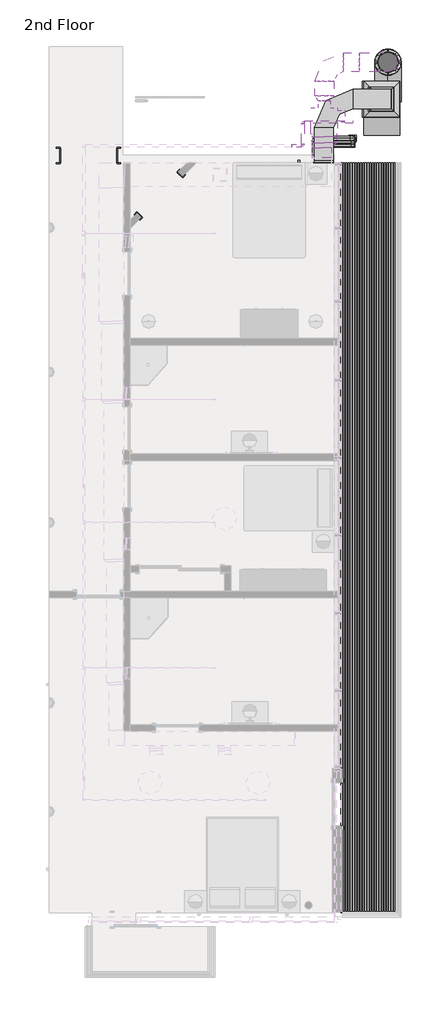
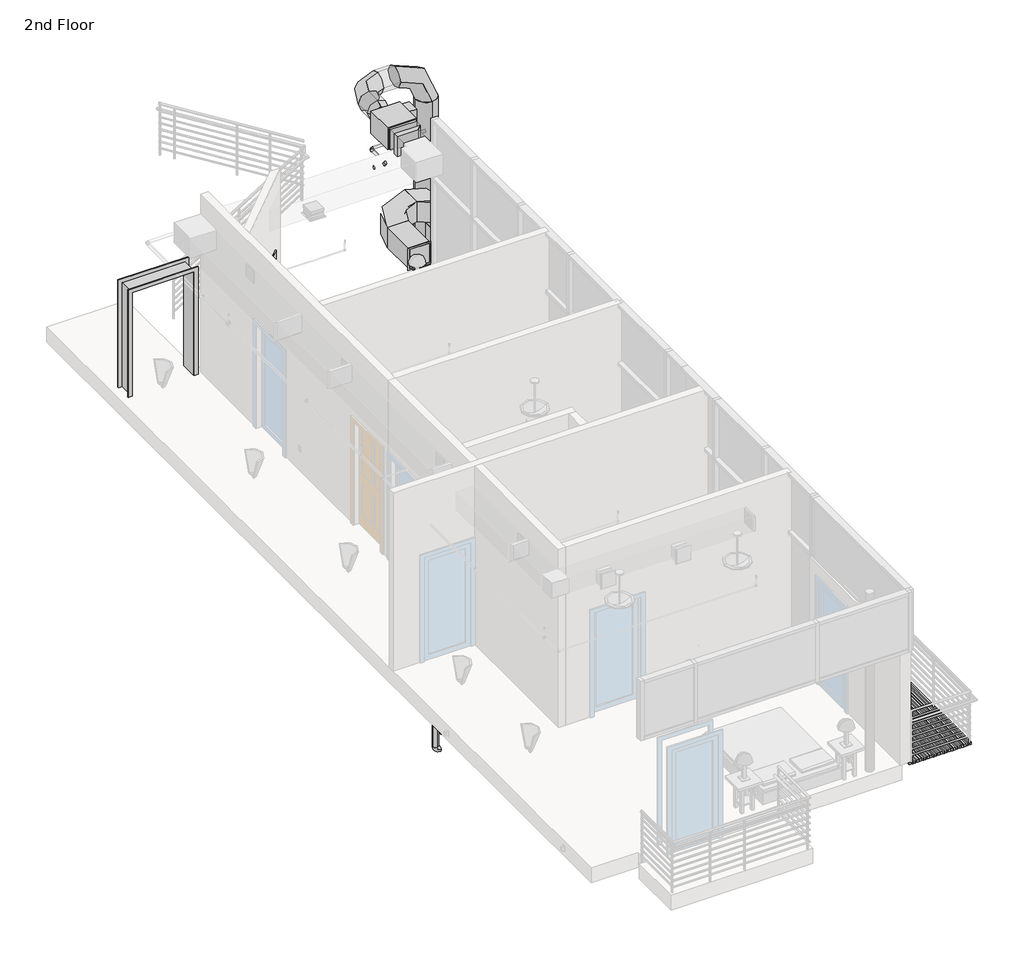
# One storey, part 7 of 7: 16 pipe fittings, 15 pipe segments, 14 duct fittings, 11 duct segments, 6 proxies, 1 air terminal.
"""IFC4 building model written with IfcOpenShell, lengths in millimetres."""

from ifc_helpers import new_model, si_unit, point, frame, frame_2d, origin, place, context, project, spatial, polyline, circle_curve, trimmed, segment, composite_curve, outline, extrude, transform, mapped, element, save
from components import air_terminal_831a3b9e, balcony_floor_grill_balcony_floor_grill_0aae0050, proxy_20ebd3de, proxy_50e7bca7, pipe_dcw_origin_standard_a8ebccfd, receptacle_gfci_367a9a66, shut_off_vav_10_inch_df6e8142, rectangular_duct_radius_elbow_1_w_26603e4f, rectangular_duct_radius_elbow_1_5_w_27b67147, rectangular_duct_tee_standard_0a25ee65, rectangular_duct_tee_standard_4e0234f7, rectangular_duct_transition_standard_f2bcc6f5, rectangular_duct_transition_standard_a76c8676, rectangular_duct_transition_standard_80c6b62c, round_duct_elbow_1_d_d8910935, round_duct_elbow_1_5_d_4d61f244, round_duct_elbow_1_5_d_5213bb2c, round_duct_transition_standard_7377344e, round_duct_transition_standard_e72bc3ee, round_duct_transition_standard_258c60d8, pipe_elbow_standard_764eecca, pipe_elbow1_standard_2_1c0ee581, pipe_elbow1_standard_2_fca8fec2, pipe_pvc_bend_standard_5fa9d94a, pipe_pvc_bend_standard_aa0c8d42, pipe_pvc_bend_standard_1e05a426, pipe_pvc_short_sanitary_tee_standard_892dad59, pipe_pvc_short_sanitary_tee1_standard_2_acb1558a, pipe_transition_eccentric_standard_ae9cfb6a, pipe_transition_eccentric_standard_3f24249d

model = new_model("IFC4")

# Units and contexts
model_context = context("Model", 3, world=origin())
ifc_project = project(units=[si_unit("LENGTHUNIT", "METRE", prefix="MILLI")], contexts=[model_context])

# Site, building, storey
site = spatial("IfcSite", under=ifc_project)
building = spatial("IfcBuilding", under=site)
storey = spatial("IfcBuildingStorey", under=building, Name="2nd Floor", Elevation=7924.8)

# Air terminal
placement = place(None, origin())
air_terminal_shape = air_terminal_831a3b9e(model_context)
element("IfcAirTerminal", 1, ObjectType="Square Return Grille - Hosted : 16\" x 16\"", at=placement, inside=storey, context=model_context, shape_type="MappedRepresentation", body=[
    mapped(air_terminal_shape, transform((2219.5060388, 9152.359643, 8658.225), x_axis=(-1.0, 0.0, 0.0), y_axis=(0.0, 0.0, -1.0), z_axis=(0.0, -1.0, 0.0))),
])

# Proxies
balcony_floor_grill_balcony_floor_grill_shape = balcony_floor_grill_balcony_floor_grill_0aae0050(model_context)
element("IfcBuildingElementProxy", 2, Name="Balcony floor grill : Balcony floor grill", ObjectType="Balcony floor grill : Balcony floor grill", at=placement, inside=storey, context=model_context, shape_type="MappedRepresentation", body=[
    mapped(balcony_floor_grill_balcony_floor_grill_shape, transform((1705.1560388, 9152.359643, 7924.8), x_axis=(1.0, 0.0, 0.0), y_axis=(0.0, 1.0, 0.0), z_axis=(0.0, 0.0, 1.0))),
])
proxy_shape = proxy_20ebd3de(model_context)
element("IfcBuildingElementProxy", 3, Name="Opening-Cased : 48\" x 84\"", ObjectType="Opening-Cased : 48\" x 84\"", at=placement, inside=storey, context=model_context, shape_type="MappedRepresentation", body=[
    mapped(proxy_shape, transform((-3623.7718379, 9304.759643, 7924.8), x_axis=(1.0, 0.0, 0.0), y_axis=(0.0, 1.0, 0.0), z_axis=(0.0, 0.0, 1.0))),
])
proxy_2_shape = proxy_50e7bca7(model_context)
element("IfcBuildingElementProxy", 4, Name="Opening-Cased : 48\" x 84\"", ObjectType="Opening-Cased : 48\" x 84\"", at=placement, inside=storey, context=model_context, shape_type="MappedRepresentation", body=[
    mapped(proxy_2_shape, transform((-2132.3311629, 8467.5889747, 7924.8), x_axis=(-0.707106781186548, -0.7071067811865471, 0.0), y_axis=(0.7071067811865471, -0.707106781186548, 0.0), z_axis=(0.0, 0.0, 1.0))),
])
pipe_dcw_origin_standard_shape = pipe_dcw_origin_standard_a8ebccfd(model_context)
element("IfcBuildingElementProxy", 5, Name="Pipe Wet Origin : Standard", ObjectType="Pipe Wet Origin : Standard", at=placement, inside=storey, context=model_context, shape_type="MappedRepresentation", body=[
    mapped(pipe_dcw_origin_standard_shape, transform((670.191299, 9507.959643, 10668.0), x_axis=(1.0, 0.0, 0.0), y_axis=(0.0, 1.0, 0.0), z_axis=(0.0, 0.0, 1.0))),
])
receptacle_gfci_shape = receptacle_gfci_367a9a66(model_context)
element("IfcBuildingElementProxy", 6, Name="Receptacle : Standard", ObjectType="Receptacle : Standard", at=placement, inside=storey, context=model_context, shape_type="MappedRepresentation", body=[
    mapped(receptacle_gfci_shape, transform((816.1560388, 9152.359643, 8343.7029353), x_axis=(-1.0, 0.0, 0.0), y_axis=(0.0, 0.0, -1.0), z_axis=(0.0, -1.0, 0.0))),
])
shut_off_vav_10_inch_shape = shut_off_vav_10_inch_df6e8142(model_context)
element("IfcBuildingElementProxy", 7, Name="Shut off VAV : 10 Inch", ObjectType="Shut off VAV : 10 Inch", at=placement, inside=storey, context=model_context, shape_type="MappedRepresentation", body=[
    mapped(shut_off_vav_10_inch_shape, transform((1352.9183521, 10028.5537863, 10972.8), x_axis=(1.0, 0.0, 0.0), y_axis=(0.0, 1.0, 0.0), z_axis=(0.0, 0.0, 1.0))),
])

# Duct fittings
rectangular_duct_radius_elbow_1_w_shape = rectangular_duct_radius_elbow_1_w_26603e4f(model_context)
element("IfcDuctFitting", 8, ObjectType="Rectangular Duct Radius Elbow : 1 W", at=placement, inside=storey, context=model_context, shape_type="MappedRepresentation", body=[
    mapped(rectangular_duct_radius_elbow_1_w_shape, transform((2565.5810388, 10493.7050553, -914.4), x_axis=(0.0, 0.0, -1.0), y_axis=(0.0, -1.0, 0.0), z_axis=(-1.0, 0.0, 0.0))),
])
rectangular_duct_radius_elbow_1_5_w_shape = rectangular_duct_radius_elbow_1_5_w_27b67147(model_context)
element("IfcDuctFitting", 9, ObjectType="Rectangular Duct Radius Elbow : 1.5 W", at=placement, inside=storey, context=model_context, shape_type="MappedRepresentation", body=[
    mapped(rectangular_duct_radius_elbow_1_5_w_shape, transform((2565.5810388, 10493.7050553, 8839.2), x_axis=(1.0, 0.0, 0.0), y_axis=(0.0, 0.0, -1.0), z_axis=(0.0, 1.0, 0.0))),
])
element("IfcDuctFitting", 10, ObjectType="Rectangular Duct Radius Elbow : 1.5 W", at=placement, inside=storey, context=model_context, shape_type="MappedRepresentation", body=[
    mapped(rectangular_duct_radius_elbow_1_5_w_shape, transform((1346.3810388, 10493.7050553, 8839.2), x_axis=(0.0, 1.0, 0.0), y_axis=(1.0, 0.0, 0.0), z_axis=(0.0, 0.0, -1.0))),
])
rectangular_duct_tee_standard_shape = rectangular_duct_tee_standard_0a25ee65(model_context)
element("IfcDuctFitting", 11, ObjectType="Rectangular Duct Tee : Standard", at=placement, inside=storey, context=model_context, shape_type="MappedRepresentation", body=[
    mapped(rectangular_duct_tee_standard_shape, transform((2565.5810388, 10493.7050553, 4572.0), x_axis=(0.0, 0.0, 1.0), y_axis=(1.0, 0.0, 0.0), z_axis=(0.0, 1.0, 0.0))),
])
rectangular_duct_tee_standard_2_shape = rectangular_duct_tee_standard_4e0234f7(model_context)
element("IfcDuctFitting", 12, ObjectType="Rectangular Duct Tee : Standard", at=placement, inside=storey, context=model_context, shape_type="MappedRepresentation", body=[
    mapped(rectangular_duct_tee_standard_2_shape, transform((2565.5810388, 10493.7050553, 1828.8), x_axis=(0.0, 0.0, 1.0), y_axis=(1.0, 0.0, 0.0), z_axis=(0.0, 1.0, 0.0))),
])
rectangular_duct_transition_standard_shape = rectangular_duct_transition_standard_f2bcc6f5(model_context)
element("IfcDuctFitting", 13, ObjectType="Rectangular Duct Transition : Standard", at=placement, inside=storey, context=model_context, shape_type="MappedRepresentation", body=[
    mapped(rectangular_duct_transition_standard_shape, transform((1352.9183521, 9571.3537863, 10972.8), x_axis=(0.0, -1.0, 0.0), y_axis=(-1.0, 0.0, 0.0), z_axis=(0.0, 0.0, -1.0))),
])
rectangular_duct_transition_standard_2_shape = rectangular_duct_transition_standard_a76c8676(model_context)
element("IfcDuctFitting", 14, ObjectType="Rectangular Duct Transition : Standard", at=placement, inside=storey, context=model_context, shape_type="MappedRepresentation", body=[
    mapped(rectangular_duct_transition_standard_2_shape, transform((2565.5810388, 10493.7050553, 4800.6), x_axis=(0.0, 0.0, 1.0), y_axis=(0.0, 1.0, 0.0), z_axis=(-1.0, 0.0, 0.0))),
])
rectangular_duct_transition_standard_3_shape = rectangular_duct_transition_standard_80c6b62c(model_context)
element("IfcDuctFitting", 15, ObjectType="Rectangular Duct Transition : Standard", at=placement, inside=storey, context=model_context, shape_type="MappedRepresentation", body=[
    mapped(rectangular_duct_transition_standard_3_shape, transform((2565.5810388, 10493.7050553, 2311.4), x_axis=(0.0, 0.0, -1.0), y_axis=(0.0, -1.0, 0.0), z_axis=(-1.0, 0.0, 0.0))),
])
round_duct_elbow_1_d_shape = round_duct_elbow_1_d_d8910935(model_context)
element("IfcDuctFitting", 16, ObjectType="Round Duct Elbow : 1 D", at=placement, inside=storey, context=model_context, shape_type="MappedRepresentation", body=[
    mapped(round_duct_elbow_1_d_shape, transform((1352.9183521, 11273.1537863, 10972.8), x_axis=(-1.0, 0.0, 0.0), y_axis=(0.0, -1.0, 0.0), z_axis=(0.0, 0.0, 1.0))),
])
round_duct_elbow_1_5_d_shape = round_duct_elbow_1_5_d_4d61f244(model_context)
element("IfcDuctFitting", 17, ObjectType="Round Duct Elbow : 1.5 D", at=placement, inside=storey, context=model_context, shape_type="MappedRepresentation", body=[
    mapped(round_duct_elbow_1_5_d_shape, transform((2699.1183521, 11273.1537863, 10972.8), x_axis=(1.0, 0.0, 0.0), y_axis=(0.0, 0.0, -1.0), z_axis=(0.0, 1.0, 0.0))),
])
round_duct_elbow_1_5_d_2_shape = round_duct_elbow_1_5_d_5213bb2c(model_context)
element("IfcDuctFitting", 18, ObjectType="Round Duct Elbow : 1.5 D", at=placement, inside=storey, context=model_context, shape_type="MappedRepresentation", body=[
    mapped(round_duct_elbow_1_5_d_2_shape, transform((2699.1183521, 11273.1537863, -1960.358655), x_axis=(0.0, 0.0, -1.0), y_axis=(0.0, -1.0, 0.0), z_axis=(-1.0, 0.0, 0.0))),
])
round_duct_transition_standard_shape = round_duct_transition_standard_7377344e(model_context)
element("IfcDuctFitting", 19, ObjectType="Round Duct Transition : Standard", at=placement, inside=storey, context=model_context, shape_type="MappedRepresentation", body=[
    mapped(round_duct_transition_standard_shape, transform((2699.1183521, 11273.1537863, 4819.65), x_axis=(0.0, 0.0, 1.0), y_axis=(0.0, 1.0, 0.0), z_axis=(-1.0, 0.0, 0.0))),
])
round_duct_transition_standard_2_shape = round_duct_transition_standard_e72bc3ee(model_context)
element("IfcDuctFitting", 20, ObjectType="Round Duct Transition : Standard", at=placement, inside=storey, context=model_context, shape_type="MappedRepresentation", body=[
    mapped(round_duct_transition_standard_2_shape, transform((2699.1183521, 11273.1537863, 7302.5), x_axis=(0.0, 0.0, -1.0), y_axis=(0.0, -1.0, 0.0), z_axis=(-1.0, 0.0, 0.0))),
])
round_duct_transition_standard_3_shape = round_duct_transition_standard_258c60d8(model_context)
element("IfcDuctFitting", 21, ObjectType="Round Duct Transition : Standard", at=placement, inside=storey, context=model_context, shape_type="MappedRepresentation", body=[
    mapped(round_duct_transition_standard_3_shape, transform((1352.9183521, 10460.3537863, 10972.8), x_axis=(0.0, 1.0, 0.0), y_axis=(-1.0, 0.0, 0.0), z_axis=(0.0, 0.0, 1.0))),
])

# Duct segments
element("IfcDuctSegment", 22, ObjectType="Mitered Elbows / Taps", at=placement, inside=storey, context=model_context, shape_type="SweptSolid", body=[
    extrude(outline(polyline([(1098.9183521, 9469.7537863), (1505.3183521, 9469.7537863), (1505.3183521, 9253.959643), (1098.9183521, 9253.959643), (1098.9183521, 9469.7537863)])), frame((0.0, 0.0, 10769.6), z_axis=(0.0, 0.0, 1.0), x_axis=(1.0, 0.0, 0.0)), (0.0, 0.0, 1.0), 406.4),
])
element("IfcDuctSegment", 23, ObjectType="Mitered Elbows / Taps", at=placement, inside=storey, context=model_context, shape_type="SweptSolid", body=[
    extrude(outline(polyline([(1098.9183521, 9698.3537863), (1606.9183521, 9698.3537863), (1606.9183521, 9571.3537863), (1098.9183521, 9571.3537863), (1098.9183521, 9698.3537863)])), frame((0.0, 0.0, 10769.6), z_axis=(0.0, 0.0, 1.0), x_axis=(1.0, 0.0, 0.0)), (0.0, 0.0, 1.0), 406.4),
])
element("IfcDuctSegment", 24, ObjectType="Mitered Elbows / Taps Sidewall", at=placement, inside=storey, context=model_context, shape_type="SweptSolid", body=[
    extrude(outline(polyline([(1549.5810388, 9196.809643), (1143.1810388, 9196.809643), (1143.1810388, 9884.1050553), (1549.5810388, 9884.1050553), (1549.5810388, 9196.809643)])), frame((0.0, 0.0, 8636.0), z_axis=(0.0, 0.0, 1.0), x_axis=(1.0, 0.0, 0.0)), (0.0, 0.0, 1.0), 406.4),
])
element("IfcDuctSegment", 25, ObjectType="Mitered Elbows / Taps Sidewall", at=placement, inside=storey, context=model_context, shape_type="SweptSolid", body=[
    extrude(outline(polyline([(2768.7810388, 10290.5050553), (2362.3810388, 10290.5050553), (2362.3810388, 10696.9050553), (2768.7810388, 10696.9050553), (2768.7810388, 10290.5050553)])), frame((0.0, 0.0, 4902.2), z_axis=(0.0, 0.0, 1.0), x_axis=(1.0, 0.0, 0.0)), (0.0, 0.0, 1.0), 3327.4),
])
element("IfcDuctSegment", 26, ObjectType="Mitered Elbows / Taps Sidewall", at=placement, inside=storey, context=model_context, shape_type="SweptSolid", body=[
    extrude(outline(polyline([(2819.5810388, 10239.7050553), (2311.5810388, 10239.7050553), (2311.5810388, 10747.7050553), (2819.5810388, 10747.7050553), (2819.5810388, 10239.7050553)])), frame((0.0, 0.0, 2311.4), z_axis=(0.0, 0.0, 1.0), x_axis=(1.0, 0.0, 0.0)), (0.0, 0.0, 1.0), 2032.0),
])
element("IfcDuctSegment", 27, ObjectType="Radius Elbows / Taps", at=placement, inside=storey, context=model_context, shape_type="SweptSolid", body=[
    extrude(outline(polyline([(2946.5810388, 10874.7050553), (2946.5810388, 10112.7050553), (2184.5810388, 10112.7050553), (2184.5810388, 10874.7050553), (2946.5810388, 10874.7050553)])), frame((0.0, 0.0, -152.4), z_axis=(0.0, 0.0, 1.0), x_axis=(1.0, 0.0, 0.0)), (0.0, 0.0, 1.0), 1752.6),
])
element("IfcDuctSegment", 28, ObjectType="Taps", at=placement, inside=storey, context=model_context, shape_type="SweptSolid", body=[
    extrude(outline(composite_curve([segment(trimmed(circle_curve(frame_2d((11273.1537863, 10972.8)), 203.2), [point((11069.9537863, 10972.8))], [point((11273.1537863, 11176.0))], False, "CARTESIAN"), True, "CONTINUOUS"), segment(trimmed(circle_curve(frame_2d((11273.1537863, 10972.8)), 203.2), [point((11273.1537863, 11176.0))], [point((11476.3537863, 10972.8))], False, "CARTESIAN"), True, "CONTINUOUS"), segment(trimmed(circle_curve(frame_2d((11273.1537863, 10972.8)), 203.2), [point((11476.3537863, 10972.8))], [point((11273.1537863, 10769.6))], False, "CARTESIAN"), True, "CONTINUOUS"), segment(trimmed(circle_curve(frame_2d((11273.1537863, 10972.8)), 203.2), [point((11273.1537863, 10769.6))], [point((11069.9537863, 10972.8))], False, "CARTESIAN"), True, "CONTINUOUS")], self_intersect=False)), frame((1759.3183521, 0.0, 0.0), z_axis=(1.0, 0.0, 0.0), x_axis=(0.0, 1.0, 0.0)), (0.0, 0.0, 1.0), 330.2),
])
element("IfcDuctSegment", 29, ObjectType="Taps", at=placement, inside=storey, context=model_context, shape_type="SweptSolid", body=[
    extrude(outline(composite_curve([segment(trimmed(circle_curve(frame_2d((2699.1183521, 11273.1537863)), 203.2), [point((2699.1183521, 11476.3537863))], [point((2902.3183521, 11273.1537863))], False, "CARTESIAN"), True, "CONTINUOUS"), segment(trimmed(circle_curve(frame_2d((2699.1183521, 11273.1537863)), 203.2), [point((2902.3183521, 11273.1537863))], [point((2699.1183521, 11069.9537863))], False, "CARTESIAN"), True, "CONTINUOUS"), segment(trimmed(circle_curve(frame_2d((2699.1183521, 11273.1537863)), 203.2), [point((2699.1183521, 11069.9537863))], [point((2495.9183521, 11273.1537863))], False, "CARTESIAN"), True, "CONTINUOUS"), segment(trimmed(circle_curve(frame_2d((2699.1183521, 11273.1537863)), 203.2), [point((2495.9183521, 11273.1537863))], [point((2699.1183521, 11476.3537863))], False, "CARTESIAN"), True, "CONTINUOUS")], self_intersect=False)), frame((0.0, 0.0, 7302.5), z_axis=(0.0, 0.0, 1.0), x_axis=(1.0, 0.0, 0.0)), (0.0, 0.0, 1.0), 3060.7),
])
element("IfcDuctSegment", 30, ObjectType="Taps", at=placement, inside=storey, context=model_context, shape_type="SweptSolid", body=[
    extrude(outline(composite_curve([segment(trimmed(circle_curve(frame_2d((2699.1183521, 11273.1537863)), 228.6), [point((2699.1183521, 11501.7537863))], [point((2927.7183521, 11273.1537863))], False, "CARTESIAN"), True, "CONTINUOUS"), segment(trimmed(circle_curve(frame_2d((2699.1183521, 11273.1537863)), 228.6), [point((2927.7183521, 11273.1537863))], [point((2699.1183521, 11044.5537863))], False, "CARTESIAN"), True, "CONTINUOUS"), segment(trimmed(circle_curve(frame_2d((2699.1183521, 11273.1537863)), 228.6), [point((2699.1183521, 11044.5537863))], [point((2470.5183521, 11273.1537863))], False, "CARTESIAN"), True, "CONTINUOUS"), segment(trimmed(circle_curve(frame_2d((2699.1183521, 11273.1537863)), 228.6), [point((2470.5183521, 11273.1537863))], [point((2699.1183521, 11501.7537863))], False, "CARTESIAN"), True, "CONTINUOUS")], self_intersect=False)), frame((0.0, 0.0, 4959.35), z_axis=(0.0, 0.0, 1.0), x_axis=(1.0, 0.0, 0.0)), (0.0, 0.0, 1.0), 1873.25),
])
element("IfcDuctSegment", 31, ObjectType="Taps", at=placement, inside=storey, context=model_context, shape_type="SweptSolid", body=[
    extrude(outline(composite_curve([segment(trimmed(circle_curve(frame_2d((2699.1183521, 11273.1537863)), 279.4), [point((2699.1183521, 11552.5537863))], [point((2978.5183521, 11273.1537863))], False, "CARTESIAN"), True, "CONTINUOUS"), segment(trimmed(circle_curve(frame_2d((2699.1183521, 11273.1537863)), 279.4), [point((2978.5183521, 11273.1537863))], [point((2699.1183521, 10993.7537863))], False, "CARTESIAN"), True, "CONTINUOUS"), segment(trimmed(circle_curve(frame_2d((2699.1183521, 11273.1537863)), 279.4), [point((2699.1183521, 10993.7537863))], [point((2419.7183521, 11273.1537863))], False, "CARTESIAN"), True, "CONTINUOUS"), segment(trimmed(circle_curve(frame_2d((2699.1183521, 11273.1537863)), 279.4), [point((2419.7183521, 11273.1537863))], [point((2699.1183521, 11552.5537863))], False, "CARTESIAN"), True, "CONTINUOUS")], self_intersect=False)), frame((0.0, 0.0, -1122.158655), z_axis=(0.0, 0.0, 1.0), x_axis=(1.0, 0.0, 0.0)), (0.0, 0.0, 1.0), 5941.808655),
])
element("IfcDuctSegment", 32, ObjectType="Taps", at=placement, inside=storey, context=model_context, shape_type="SweptSolid", body=[
    extrude(outline(composite_curve([segment(trimmed(circle_curve(frame_2d((10972.8, 1352.9183521)), 203.2), [point((10972.8, 1556.1183521))], [point((11176.0, 1352.9183521))], False, "CARTESIAN"), True, "CONTINUOUS"), segment(trimmed(circle_curve(frame_2d((10972.8, 1352.9183521)), 203.2), [point((11176.0, 1352.9183521))], [point((10972.8, 1149.7183521))], False, "CARTESIAN"), True, "CONTINUOUS"), segment(trimmed(circle_curve(frame_2d((10972.8, 1352.9183521)), 203.2), [point((10972.8, 1149.7183521))], [point((10769.6, 1352.9183521))], False, "CARTESIAN"), True, "CONTINUOUS"), segment(trimmed(circle_curve(frame_2d((10972.8, 1352.9183521)), 203.2), [point((10769.6, 1352.9183521))], [point((10972.8, 1556.1183521))], False, "CARTESIAN"), True, "CONTINUOUS")], self_intersect=False)), frame((0.0, 10561.9537863, 0.0), z_axis=(0.0, 1.0, 0.0), x_axis=(0.0, 0.0, 1.0)), (0.0, 0.0, 1.0), 304.8),
])

# Pipe fittings
pipe_elbow_standard_shape = pipe_elbow_standard_764eecca(model_context)
element("IfcPipeFitting", 33, ObjectType="Pipe Elbow : Standard", at=placement, inside=storey, context=model_context, shape_type="MappedRepresentation", body=[
    mapped(pipe_elbow_standard_shape, transform((1239.0339673, 9575.5665072, 7315.2), x_axis=(0.0, 1.0, 0.0), y_axis=(1.0, 0.0, 0.0), z_axis=(0.0, 0.0, -1.0))),
])
element("IfcPipeFitting", 34, ObjectType="Pipe Elbow : Standard", at=placement, inside=storey, context=model_context, shape_type="MappedRepresentation", body=[
    mapped(pipe_elbow_standard_shape, transform((1961.8568022, 9575.5665072, 7315.2), x_axis=(0.0, 0.0, 1.0), y_axis=(-1.0, 0.0, 0.0), z_axis=(0.0, -1.0, 0.0))),
])
element("IfcPipeFitting", 35, ObjectType="Pipe Elbow : Standard", at=placement, inside=storey, context=model_context, shape_type="MappedRepresentation", body=[
    mapped(pipe_elbow_standard_shape, transform((1321.5267673, 9502.9587059, 7315.2), x_axis=(0.0, 1.0, 0.0), y_axis=(1.0, 0.0, 0.0), z_axis=(0.0, 0.0, -1.0))),
])
element("IfcPipeFitting", 36, ObjectType="Pipe Elbow : Standard", at=placement, inside=storey, context=model_context, shape_type="MappedRepresentation", body=[
    mapped(pipe_elbow_standard_shape, transform((1961.8568022, 9502.9587059, 7315.2), x_axis=(0.0, 0.0, 1.0), y_axis=(-1.0, 0.0, 0.0), z_axis=(0.0, -1.0, 0.0))),
])
pipe_elbow1_standard_2_shape = pipe_elbow1_standard_2_1c0ee581(model_context)
element("IfcPipeFitting", 37, ObjectType="Pipe Elbow1 : Standard 2", at=placement, inside=storey, context=model_context, shape_type="MappedRepresentation", body=[
    mapped(pipe_elbow1_standard_2_shape, transform((1961.8568022, 9502.9587059, 456.2078125), x_axis=(0.0, 0.0, -1.0), y_axis=(1.0, 0.0, 0.0), z_axis=(0.0, -1.0, 0.0))),
])
element("IfcPipeFitting", 38, ObjectType="Pipe Elbow1 : Standard 2", at=placement, inside=storey, context=model_context, shape_type="MappedRepresentation", body=[
    mapped(pipe_elbow1_standard_2_shape, transform((1961.8568022, 9575.5665072, 455.6786458), x_axis=(0.0, 0.0, -1.0), y_axis=(1.0, 0.0, 0.0), z_axis=(0.0, -1.0, 0.0))),
])
element("IfcPipeFitting", 39, ObjectType="Pipe Elbow1 : Standard 2", at=placement, inside=storey, context=model_context, shape_type="MappedRepresentation", body=[
    mapped(pipe_elbow_standard_shape, transform((899.9760388, 9507.959643, 10668.0), x_axis=(1.0, 0.0, 0.0), y_axis=(0.0, 1.0, 0.0), z_axis=(0.0, 0.0, 1.0))),
])
element("IfcPipeFitting", 40, ObjectType="Pipe Elbow1 : Standard 2", at=placement, inside=storey, context=model_context, shape_type="MappedRepresentation", body=[
    mapped(pipe_elbow_standard_shape, transform((899.9760388, 10004.7891583, 10668.0), x_axis=(0.0, 1.0, 0.0), y_axis=(1.0, 0.0, 0.0), z_axis=(0.0, 0.0, -1.0))),
])
pipe_elbow1_standard_2_2_shape = pipe_elbow1_standard_2_fca8fec2(model_context)
element("IfcPipeFitting", 41, ObjectType="Pipe Elbow1 : Standard 2", at=placement, inside=storey, context=model_context, shape_type="MappedRepresentation", body=[
    mapped(pipe_elbow1_standard_2_2_shape, transform((1956.0654371, 9666.2337041, 7310.4375), x_axis=(0.9999449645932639, 0.0, -0.010491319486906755), y_axis=(-0.010491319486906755, 0.0, -0.9999449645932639), z_axis=(0.0, 1.0, 0.0))),
])
pipe_pvc_bend_standard_shape = pipe_pvc_bend_standard_5fa9d94a(model_context)
element("IfcPipeFitting", 42, ObjectType="Pipe PVC Bend : Standard", at=placement, inside=storey, context=model_context, shape_type="MappedRepresentation", body=[
    mapped(pipe_pvc_bend_standard_shape, transform((1956.0654371, 9666.2337041, -1809.8101271), x_axis=(0.0, 0.0, -1.0), y_axis=(1.0, 0.0, 0.0), z_axis=(0.0, -1.0, 0.0))),
])
pipe_pvc_bend_standard_2_shape = pipe_pvc_bend_standard_aa0c8d42(model_context)
element("IfcPipeFitting", 43, ObjectType="Pipe PVC Bend : Standard", at=placement, inside=storey, context=model_context, shape_type="MappedRepresentation", body=[
    mapped(pipe_pvc_bend_standard_2_shape, transform((1139.7888317, 9004.6705514, 7325.8930728), x_axis=(0.9999456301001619, 0.0, -0.010427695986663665), y_axis=(-0.00010861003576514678, 0.9999457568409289, -0.010414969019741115), z_axis=(0.010427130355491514, 0.010415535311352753, 0.9998913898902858))),
])
pipe_pvc_bend_standard_3_shape = pipe_pvc_bend_standard_1e05a426(model_context)
element("IfcPipeFitting", 44, ObjectType="Pipe PVC Bend : Standard", at=placement, inside=storey, context=model_context, shape_type="MappedRepresentation", body=[
    mapped(pipe_pvc_bend_standard_3_shape, transform((1139.7888317, 9666.2337041, 7319.00179), x_axis=(0.0, 0.9999457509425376, -0.01041610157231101), y_axis=(0.9999449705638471, -0.00010927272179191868, -0.010490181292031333), z_axis=(-0.010490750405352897, -0.010415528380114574, -0.9998907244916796))),
])
pipe_pvc_short_sanitary_tee_standard_shape = pipe_pvc_short_sanitary_tee_standard_892dad59(model_context)
element("IfcPipeFitting", 45, ObjectType="Pipe PVC Short Sanitary Tee : Standard", at=placement, inside=storey, context=model_context, shape_type="MappedRepresentation", body=[
    mapped(pipe_pvc_short_sanitary_tee_standard_shape, transform((1956.0654371, 9666.2337041, 3711.5542865), x_axis=(0.0, 0.0, 1.0), y_axis=(-1.0, 0.0, 0.0), z_axis=(0.0, -1.0, 0.0))),
])
pipe_pvc_short_sanitary_tee1_standard_2_shape = pipe_pvc_short_sanitary_tee1_standard_2_acb1558a(model_context)
element("IfcPipeFitting", 46, ObjectType="Pipe PVC Short Sanitary Tee1 : Standard 2", at=placement, inside=storey, context=model_context, shape_type="MappedRepresentation", body=[
    mapped(pipe_pvc_short_sanitary_tee1_standard_2_shape, transform((1956.0654371, 9666.2337041, 99.6566901), x_axis=(0.0, 0.0, 1.0), y_axis=(0.0, -1.0, 0.0), z_axis=(1.0, 0.0, 0.0))),
])
pipe_transition_eccentric_standard_shape = pipe_transition_eccentric_standard_ae9cfb6a(model_context)
element("IfcPipeFitting", 47, ObjectType="Pipe Transition Eccentric : Standard", at=placement, inside=storey, context=model_context, shape_type="MappedRepresentation", body=[
    mapped(pipe_transition_eccentric_standard_shape, transform((1871.2333574, 9666.2337041, 3712.437954), x_axis=(-0.9999457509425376, 0.0, 0.010416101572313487), y_axis=(-0.010416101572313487, 0.0, -0.9999457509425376), z_axis=(0.0, -1.0, 0.0))),
])
pipe_transition_eccentric_standard_2_shape = pipe_transition_eccentric_standard_3f24249d(model_context)
element("IfcPipeFitting", 48, ObjectType="Pipe Transition Eccentric : Standard", at=placement, inside=storey, context=model_context, shape_type="MappedRepresentation", body=[
    mapped(pipe_transition_eccentric_standard_2_shape, transform((1956.0654371, 9666.2337041, 3850.5502), x_axis=(0.0, 0.0, -1.0), y_axis=(1.0, 0.0, 0.0), z_axis=(0.0, -1.0, 0.0))),
])

# Pipe segments
element("IfcPipeSegment", 49, ObjectType="PVC", at=placement, inside=storey, context=model_context, shape_type="SweptSolid", body=[
    extrude(outline(composite_curve([segment(trimmed(circle_curve(frame_2d((1956.0654371, 9666.2337041)), 57.15), [point((1898.9154371, 9666.2337041))], [point((1956.0654371, 9723.3837041))], False, "CARTESIAN"), True, "CONTINUOUS"), segment(trimmed(circle_curve(frame_2d((1956.0654371, 9666.2337041)), 57.15), [point((1956.0654371, 9723.3837041))], [point((2013.2154371, 9666.2337041))], False, "CARTESIAN"), True, "CONTINUOUS"), segment(trimmed(circle_curve(frame_2d((1956.0654371, 9666.2337041)), 57.15), [point((2013.2154371, 9666.2337041))], [point((1956.0654371, 9609.0837041))], False, "CARTESIAN"), True, "CONTINUOUS"), segment(trimmed(circle_curve(frame_2d((1956.0654371, 9666.2337041)), 57.15), [point((1956.0654371, 9609.0837041))], [point((1898.9154371, 9666.2337041))], False, "CARTESIAN"), True, "CONTINUOUS")], self_intersect=False)), frame((0.0, 0.0, 160.8651343), z_axis=(0.0, 0.0, 1.0), x_axis=(1.0, 0.0, 0.0)), (0.0, 0.0, 1.0), 3465.8524703),
])
element("IfcPipeSegment", 50, ObjectType="PVC", at=placement, inside=storey, context=model_context, shape_type="SweptSolid", body=[
    extrude(outline(composite_curve([segment(trimmed(circle_curve(frame_2d((1956.0654371, 9666.2337041)), 57.15), [point((1898.9154371, 9666.2337041))], [point((1956.0654371, 9723.3837041))], False, "CARTESIAN"), True, "CONTINUOUS"), segment(trimmed(circle_curve(frame_2d((1956.0654371, 9666.2337041)), 57.15), [point((1956.0654371, 9723.3837041))], [point((2013.2154371, 9666.2337041))], False, "CARTESIAN"), True, "CONTINUOUS"), segment(trimmed(circle_curve(frame_2d((1956.0654371, 9666.2337041)), 57.15), [point((2013.2154371, 9666.2337041))], [point((1956.0654371, 9609.0837041))], False, "CARTESIAN"), True, "CONTINUOUS"), segment(trimmed(circle_curve(frame_2d((1956.0654371, 9666.2337041)), 57.15), [point((1956.0654371, 9609.0837041))], [point((1898.9154371, 9666.2337041))], False, "CARTESIAN"), True, "CONTINUOUS")], self_intersect=False)), frame((0.0, 0.0, -1736.6020575), z_axis=(0.0, 0.0, 1.0), x_axis=(1.0, 0.0, 0.0)), (0.0, 0.0, 1.0), 1751.4218399),
])
element("IfcPipeSegment", 51, ObjectType="Standard", at=placement, inside=storey, context=model_context, shape_type="SweptSolid", body=[
    extrude(outline(composite_curve([segment(trimmed(circle_curve(frame_2d((7315.2, 1239.0339673)), 26.9875), [point((7315.2, 1212.0464673))], [point((7288.2125, 1239.0339673))], False, "CARTESIAN"), True, "CONTINUOUS"), segment(trimmed(circle_curve(frame_2d((7315.2, 1239.0339673)), 26.9875), [point((7288.2125, 1239.0339673))], [point((7315.2, 1266.0214673))], False, "CARTESIAN"), True, "CONTINUOUS"), segment(trimmed(circle_curve(frame_2d((7315.2, 1239.0339673)), 26.9875), [point((7315.2, 1266.0214673))], [point((7342.1875, 1239.0339673))], False, "CARTESIAN"), True, "CONTINUOUS"), segment(trimmed(circle_curve(frame_2d((7315.2, 1239.0339673)), 26.9875), [point((7342.1875, 1239.0339673))], [point((7315.2, 1212.0464673))], False, "CARTESIAN"), True, "CONTINUOUS")], self_intersect=False)), frame((0.0, 8932.1239915, 0.0), z_axis=(0.0, 1.0, 0.0), x_axis=(0.0, 0.0, 1.0)), (0.0, 0.0, 1.0), 606.9300156),
])
element("IfcPipeSegment", 52, ObjectType="Standard", at=placement, inside=storey, context=model_context, shape_type="SweptSolid", body=[
    extrude(outline(composite_curve([segment(trimmed(circle_curve(frame_2d((0.0, -39.6875)), 39.6875), [point((39.6875, -39.6875))], [point((0.0, -79.375))], False, "CARTESIAN"), True, "CONTINUOUS"), segment(trimmed(circle_curve(frame_2d((0.0, -39.6875)), 39.6875), [point((0.0, -79.375))], [point((-39.6875, -39.6875))], False, "CARTESIAN"), True, "CONTINUOUS"), segment(trimmed(circle_curve(frame_2d((0.0, -39.6875)), 39.6875), [point((-39.6875, -39.6875))], [point((0.0, 0.0))], False, "CARTESIAN"), True, "CONTINUOUS"), segment(trimmed(circle_curve(frame_2d((0.0, -39.6875)), 39.6875), [point((0.0, 0.0))], [point((39.6875, -39.6875))], False, "CARTESIAN"), True, "CONTINUOUS")], self_intersect=False)), frame((1139.7888317, 9606.3319572, 7359.3154197), z_axis=(0.0, -0.9999457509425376, 0.010416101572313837), x_axis=(1.0, 0.0, 0.0)), (0.0, 0.0, 1.0), 540.9621877),
])
element("IfcPipeSegment", 53, ObjectType="Standard", at=placement, inside=storey, context=model_context, shape_type="SweptSolid", body=[
    extrude(outline(composite_curve([segment(trimmed(circle_curve(frame_2d((0.0, -39.6875)), 39.6875), [point((0.0, -79.375))], [point((-39.6875, -39.6875))], False, "CARTESIAN"), True, "CONTINUOUS"), segment(trimmed(circle_curve(frame_2d((0.0, -39.6875)), 39.6875), [point((-39.6875, -39.6875))], [point((0.0, 0.0))], False, "CARTESIAN"), True, "CONTINUOUS"), segment(trimmed(circle_curve(frame_2d((0.0, -39.6875)), 39.6875), [point((0.0, 0.0))], [point((39.6875, -39.6875))], False, "CARTESIAN"), True, "CONTINUOUS"), segment(trimmed(circle_curve(frame_2d((0.0, -39.6875)), 39.6875), [point((39.6875, -39.6875))], [point((0.0, -79.375))], False, "CARTESIAN"), True, "CONTINUOUS")], self_intersect=False)), frame((1907.3692412, 9705.9212041, 7310.9484155), z_axis=(-0.9999449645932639, 0.0, 0.01049131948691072), x_axis=(0.01049131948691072, 0.0, 0.9999449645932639)), (0.0, 0.0, 1.0), 707.3042478),
])
element("IfcPipeSegment", 54, ObjectType="Standard", at=placement, inside=storey, context=model_context, shape_type="SweptSolid", body=[
    extrude(outline(composite_curve([segment(trimmed(circle_curve(frame_2d((9575.5665072, 7315.2)), 26.9875), [point((9548.5790072, 7315.2))], [point((9575.5665072, 7342.1875))], False, "CARTESIAN"), True, "CONTINUOUS"), segment(trimmed(circle_curve(frame_2d((9575.5665072, 7315.2)), 26.9875), [point((9575.5665072, 7342.1875))], [point((9602.5540072, 7315.2))], False, "CARTESIAN"), True, "CONTINUOUS"), segment(trimmed(circle_curve(frame_2d((9575.5665072, 7315.2)), 26.9875), [point((9602.5540072, 7315.2))], [point((9575.5665072, 7288.2125))], False, "CARTESIAN"), True, "CONTINUOUS"), segment(trimmed(circle_curve(frame_2d((9575.5665072, 7315.2)), 26.9875), [point((9575.5665072, 7288.2125))], [point((9548.5790072, 7315.2))], False, "CARTESIAN"), True, "CONTINUOUS")], self_intersect=False)), frame((1275.5464673, 0.0, 0.0), z_axis=(1.0, 0.0, 0.0), x_axis=(0.0, 1.0, 0.0)), (0.0, 0.0, 1.0), 649.7978349),
])
element("IfcPipeSegment", 55, ObjectType="Standard", at=placement, inside=storey, context=model_context, shape_type="SweptSolid", body=[
    extrude(outline(composite_curve([segment(trimmed(circle_curve(frame_2d((1961.8568022, 9575.5665072)), 26.9875), [point((1961.8568022, 9548.5790072))], [point((1934.8693022, 9575.5665072))], False, "CARTESIAN"), True, "CONTINUOUS"), segment(trimmed(circle_curve(frame_2d((1961.8568022, 9575.5665072)), 26.9875), [point((1934.8693022, 9575.5665072))], [point((1961.8568022, 9602.5540072))], False, "CARTESIAN"), True, "CONTINUOUS"), segment(trimmed(circle_curve(frame_2d((1961.8568022, 9575.5665072)), 26.9875), [point((1961.8568022, 9602.5540072))], [point((1988.8443022, 9575.5665072))], False, "CARTESIAN"), True, "CONTINUOUS"), segment(trimmed(circle_curve(frame_2d((1961.8568022, 9575.5665072)), 26.9875), [point((1988.8443022, 9575.5665072))], [point((1961.8568022, 9548.5790072))], False, "CARTESIAN"), True, "CONTINUOUS")], self_intersect=False)), frame((0.0, 0.0, 492.5734653), z_axis=(0.0, 0.0, 1.0), x_axis=(1.0, 0.0, 0.0)), (0.0, 0.0, 1.0), 6786.1140347),
])
element("IfcPipeSegment", 56, ObjectType="Standard", at=placement, inside=storey, context=model_context, shape_type="SweptSolid", body=[
    extrude(outline(composite_curve([segment(trimmed(circle_curve(frame_2d((7315.2, 1321.5267673)), 26.9875), [point((7315.2, 1348.5142673))], [point((7342.1875, 1321.5267673))], False, "CARTESIAN"), True, "CONTINUOUS"), segment(trimmed(circle_curve(frame_2d((7315.2, 1321.5267673)), 26.9875), [point((7342.1875, 1321.5267673))], [point((7315.2, 1294.5392673))], False, "CARTESIAN"), True, "CONTINUOUS"), segment(trimmed(circle_curve(frame_2d((7315.2, 1321.5267673)), 26.9875), [point((7315.2, 1294.5392673))], [point((7288.2125, 1321.5267673))], False, "CARTESIAN"), True, "CONTINUOUS"), segment(trimmed(circle_curve(frame_2d((7315.2, 1321.5267673)), 26.9875), [point((7288.2125, 1321.5267673))], [point((7315.2, 1348.5142673))], False, "CARTESIAN"), True, "CONTINUOUS")], self_intersect=False)), frame((0.0, 8836.503328, 0.0), z_axis=(0.0, 1.0, 0.0), x_axis=(0.0, 0.0, 1.0)), (0.0, 0.0, 1.0), 629.9428779),
])
element("IfcPipeSegment", 57, ObjectType="Standard", at=placement, inside=storey, context=model_context, shape_type="SweptSolid", body=[
    extrude(outline(composite_curve([segment(trimmed(circle_curve(frame_2d((9502.9587059, 7315.2)), 26.9875), [point((9475.9712059, 7315.2))], [point((9502.9587059, 7342.1875))], False, "CARTESIAN"), True, "CONTINUOUS"), segment(trimmed(circle_curve(frame_2d((9502.9587059, 7315.2)), 26.9875), [point((9502.9587059, 7342.1875))], [point((9529.9462059, 7315.2))], False, "CARTESIAN"), True, "CONTINUOUS"), segment(trimmed(circle_curve(frame_2d((9502.9587059, 7315.2)), 26.9875), [point((9529.9462059, 7315.2))], [point((9502.9587059, 7288.2125))], False, "CARTESIAN"), True, "CONTINUOUS"), segment(trimmed(circle_curve(frame_2d((9502.9587059, 7315.2)), 26.9875), [point((9502.9587059, 7288.2125))], [point((9475.9712059, 7315.2))], False, "CARTESIAN"), True, "CONTINUOUS")], self_intersect=False)), frame((1358.0392673, 0.0, 0.0), z_axis=(1.0, 0.0, 0.0), x_axis=(0.0, 1.0, 0.0)), (0.0, 0.0, 1.0), 567.3050349),
])
element("IfcPipeSegment", 58, ObjectType="Standard", at=placement, inside=storey, context=model_context, shape_type="SweptSolid", body=[
    extrude(outline(composite_curve([segment(trimmed(circle_curve(frame_2d((1961.8568022, 9502.9587059)), 26.9875), [point((1961.8568022, 9475.9712059))], [point((1934.8693022, 9502.9587059))], False, "CARTESIAN"), True, "CONTINUOUS"), segment(trimmed(circle_curve(frame_2d((1961.8568022, 9502.9587059)), 26.9875), [point((1934.8693022, 9502.9587059))], [point((1961.8568022, 9529.9462059))], False, "CARTESIAN"), True, "CONTINUOUS"), segment(trimmed(circle_curve(frame_2d((1961.8568022, 9502.9587059)), 26.9875), [point((1961.8568022, 9529.9462059))], [point((1988.8443022, 9502.9587059))], False, "CARTESIAN"), True, "CONTINUOUS"), segment(trimmed(circle_curve(frame_2d((1961.8568022, 9502.9587059)), 26.9875), [point((1988.8443022, 9502.9587059))], [point((1961.8568022, 9475.9712059))], False, "CARTESIAN"), True, "CONTINUOUS")], self_intersect=False)), frame((0.0, 0.0, 493.1026319), z_axis=(0.0, 0.0, 1.0), x_axis=(1.0, 0.0, 0.0)), (0.0, 0.0, 1.0), 6785.5848681),
])
element("IfcPipeSegment", 59, ObjectType="Standard", at=placement, inside=storey, context=model_context, shape_type="SweptSolid", body=[
    extrude(outline(composite_curve([segment(trimmed(circle_curve(frame_2d((1956.0654371, 9666.2337041)), 39.6875), [point((1995.7529371, 9666.2337041))], [point((1956.0654371, 9626.5462041))], False, "CARTESIAN"), True, "CONTINUOUS"), segment(trimmed(circle_curve(frame_2d((1956.0654371, 9666.2337041)), 39.6875), [point((1956.0654371, 9626.5462041))], [point((1916.3779371, 9666.2337041))], False, "CARTESIAN"), True, "CONTINUOUS"), segment(trimmed(circle_curve(frame_2d((1956.0654371, 9666.2337041)), 39.6875), [point((1916.3779371, 9666.2337041))], [point((1956.0654371, 9705.9212041))], False, "CARTESIAN"), True, "CONTINUOUS"), segment(trimmed(circle_curve(frame_2d((1956.0654371, 9666.2337041)), 39.6875), [point((1956.0654371, 9705.9212041))], [point((1995.7529371, 9666.2337041))], False, "CARTESIAN"), True, "CONTINUOUS")], self_intersect=False)), frame((0.0, 0.0, 3850.5502), z_axis=(0.0, 0.0, 1.0), x_axis=(1.0, 0.0, 0.0)), (0.0, 0.0, 1.0), 3411.1884239),
])
element("IfcPipeSegment", 60, ObjectType="Standard", at=placement, inside=storey, context=model_context, shape_type="SweptSolid", body=[
    extrude(outline(composite_curve([segment(trimmed(circle_curve(frame_2d((10004.7891583, 10668.0)), 26.9875), [point((9977.8016583, 10668.0))], [point((10004.7891583, 10694.9875))], False, "CARTESIAN"), True, "CONTINUOUS"), segment(trimmed(circle_curve(frame_2d((10004.7891583, 10668.0)), 26.9875), [point((10004.7891583, 10694.9875))], [point((10031.7766583, 10668.0))], False, "CARTESIAN"), True, "CONTINUOUS"), segment(trimmed(circle_curve(frame_2d((10004.7891583, 10668.0)), 26.9875), [point((10031.7766583, 10668.0))], [point((10004.7891583, 10641.0125))], False, "CARTESIAN"), True, "CONTINUOUS"), segment(trimmed(circle_curve(frame_2d((10004.7891583, 10668.0)), 26.9875), [point((10004.7891583, 10641.0125))], [point((9977.8016583, 10668.0))], False, "CARTESIAN"), True, "CONTINUOUS")], self_intersect=False)), frame((936.4885388, 0.0, 0.0), z_axis=(1.0, 0.0, 0.0), x_axis=(0.0, 1.0, 0.0)), (0.0, 0.0, 1.0), 1019.175),
])
element("IfcPipeSegment", 61, ObjectType="Standard", at=placement, inside=storey, context=model_context, shape_type="SweptSolid", body=[
    extrude(outline(composite_curve([segment(trimmed(circle_curve(frame_2d((9507.959643, 10668.0)), 26.9875), [point((9480.972143, 10668.0))], [point((9507.959643, 10694.9875))], False, "CARTESIAN"), True, "CONTINUOUS"), segment(trimmed(circle_curve(frame_2d((9507.959643, 10668.0)), 26.9875), [point((9507.959643, 10694.9875))], [point((9534.947143, 10668.0))], False, "CARTESIAN"), True, "CONTINUOUS"), segment(trimmed(circle_curve(frame_2d((9507.959643, 10668.0)), 26.9875), [point((9534.947143, 10668.0))], [point((9507.959643, 10641.0125))], False, "CARTESIAN"), True, "CONTINUOUS"), segment(trimmed(circle_curve(frame_2d((9507.959643, 10668.0)), 26.9875), [point((9507.959643, 10641.0125))], [point((9480.972143, 10668.0))], False, "CARTESIAN"), True, "CONTINUOUS")], self_intersect=False)), frame((671.461299, 0.0, 0.0), z_axis=(1.0, 0.0, 0.0), x_axis=(0.0, 1.0, 0.0)), (0.0, 0.0, 1.0), 192.0022398),
])
element("IfcPipeSegment", 62, ObjectType="Standard", at=placement, inside=storey, context=model_context, shape_type="SweptSolid", body=[
    extrude(outline(composite_curve([segment(trimmed(circle_curve(frame_2d((10668.0, 899.9760388)), 26.9875), [point((10668.0, 926.9635388))], [point((10694.9875, 899.9760388))], False, "CARTESIAN"), True, "CONTINUOUS"), segment(trimmed(circle_curve(frame_2d((10668.0, 899.9760388)), 26.9875), [point((10694.9875, 899.9760388))], [point((10668.0, 872.9885388))], False, "CARTESIAN"), True, "CONTINUOUS"), segment(trimmed(circle_curve(frame_2d((10668.0, 899.9760388)), 26.9875), [point((10668.0, 872.9885388))], [point((10641.0125, 899.9760388))], False, "CARTESIAN"), True, "CONTINUOUS"), segment(trimmed(circle_curve(frame_2d((10668.0, 899.9760388)), 26.9875), [point((10641.0125, 899.9760388))], [point((10668.0, 926.9635388))], False, "CARTESIAN"), True, "CONTINUOUS")], self_intersect=False)), frame((0.0, 9544.472143, 0.0), z_axis=(0.0, 1.0, 0.0), x_axis=(0.0, 0.0, 1.0)), (0.0, 0.0, 1.0), 423.8045154),
])
element("IfcPipeSegment", 63, ObjectType="Standard", at=placement, inside=storey, context=model_context, shape_type="SweptSolid", body=[
    extrude(outline(composite_curve([segment(trimmed(circle_curve(frame_2d((1956.0654371, 9666.2337041)), 52.3875), [point((1903.6779371, 9666.2337041))], [point((1956.0654371, 9718.6212041))], False, "CARTESIAN"), True, "CONTINUOUS"), segment(trimmed(circle_curve(frame_2d((1956.0654371, 9666.2337041)), 52.3875), [point((1956.0654371, 9718.6212041))], [point((2008.4529371, 9666.2337041))], False, "CARTESIAN"), True, "CONTINUOUS"), segment(trimmed(circle_curve(frame_2d((1956.0654371, 9666.2337041)), 52.3875), [point((2008.4529371, 9666.2337041))], [point((1956.0654371, 9613.8462041))], False, "CARTESIAN"), True, "CONTINUOUS"), segment(trimmed(circle_curve(frame_2d((1956.0654371, 9666.2337041)), 52.3875), [point((1956.0654371, 9613.8462041))], [point((1903.6779371, 9666.2337041))], False, "CARTESIAN"), True, "CONTINUOUS")], self_intersect=False)), frame((0.0, 0.0, 3772.762954), z_axis=(0.0, 0.0, 1.0), x_axis=(1.0, 0.0, 0.0)), (0.0, 0.0, 1.0), 64.690371),
])

save(model, "model.ifc")
